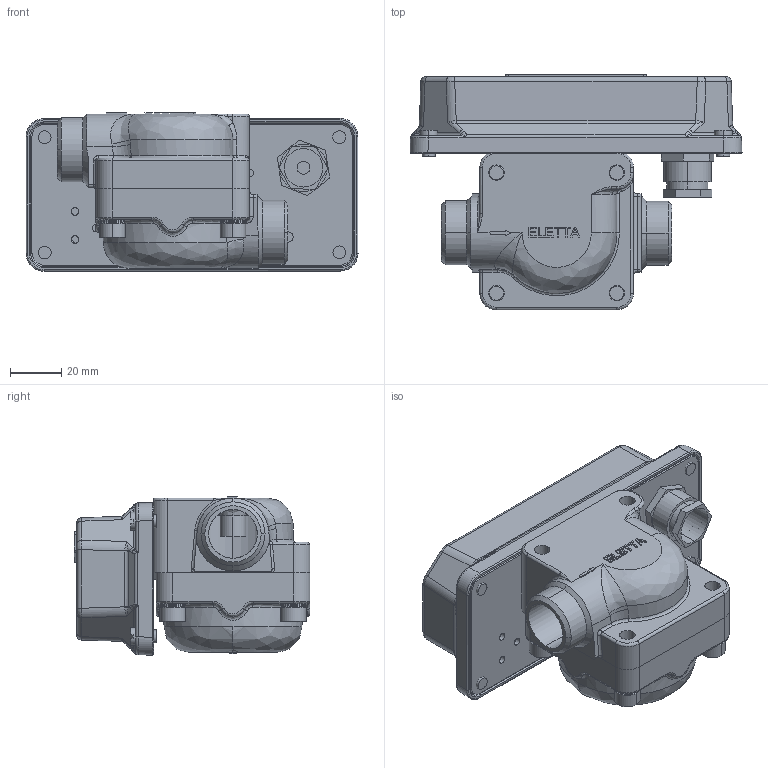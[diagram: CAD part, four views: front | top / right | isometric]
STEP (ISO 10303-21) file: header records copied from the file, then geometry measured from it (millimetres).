
FILE_DESCRIPTION (( 'STEP AP214' ), '1' );
FILE_NAME ('SP-G20.STEP', '2016-09-21T13:17:18', ( 'User' ), ( 'HP' ), 'SwSTEP 2.0', 'SolidWorks 2016', '' );
FILE_SCHEMA (( 'AUTOMOTIVE_DESIGN' ));
Length unit declared in the file: millimetre
Products named in the file (8): ID_6; ID_5; ID_4; ID_3; ID_1_2; ID_2; ID_1; SP-G20
Assembly tree (13 placements, depth 2):
  SP-G20
    ID_1
    ID_2
    ID_1_2  x4
    ID_3
    ID_4
    ID_5
    ID_6  x4
Bounding box: 129.59 x 92 x 61.85 mm (x, y, z)
Volume: 170826.4 mm3; surface area: 94795.3 mm2
Topology: 13 solids, 13 shells, 1172 faces, 2879 edges, 1774 vertices
Faces by surface type: plane 456, cylinder 379, bspline 269, cone 68
Entity records: 54857 total; most frequent: CARTESIAN_POINT 32193, ORIENTED_EDGE 5086, DIRECTION 3759, EDGE_CURVE 2543, VERTEX_POINT 1582, VECTOR 1321, LINE 1321, AXIS2_PLACEMENT_3D 1219
